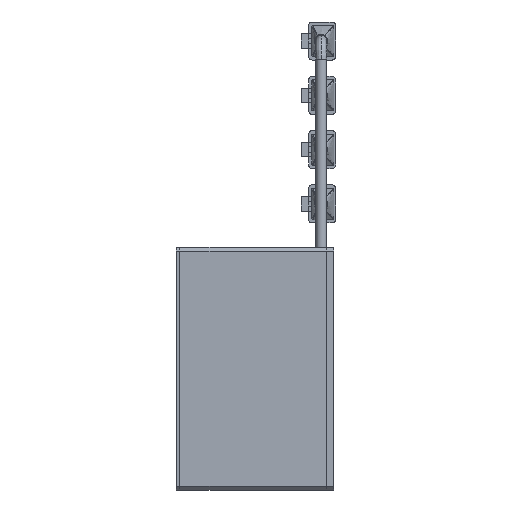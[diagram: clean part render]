
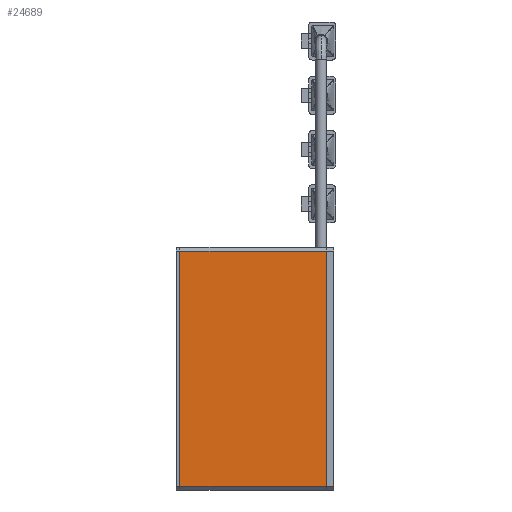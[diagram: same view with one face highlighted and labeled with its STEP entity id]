
A CAD part, left-side view. The second image highlights one B-rep face of the part: STEP entity #24689.
In plain terms, the highlighted planar face has unit normal (-1, 0, 0).
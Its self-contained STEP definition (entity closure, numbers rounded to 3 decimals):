
#1821 = VERTEX_POINT ( 'NONE', #35663 ) ;
#2476 = CARTESIAN_POINT ( 'NONE',  ( -29.5, 20.25, 32.5 ) ) ;
#6207 = DIRECTION ( 'NONE',  ( 0., -1., 0. ) ) ;
#8131 = AXIS2_PLACEMENT_3D ( 'NONE', #15630, #11729, #26549 ) ;
#8838 = EDGE_CURVE ( 'NONE', #37309, #12522, #11157, .T. ) ;
#9569 = EDGE_CURVE ( 'NONE', #12522, #1821, #33968, .T. ) ;
#10433 = CARTESIAN_POINT ( 'NONE',  ( -29.5, 20.25, -32.5 ) ) ;
#11157 = LINE ( 'NONE', #10433, #38511 ) ;
#11729 = DIRECTION ( 'NONE',  ( 1., 0., 0. ) ) ;
#12344 = CARTESIAN_POINT ( 'NONE',  ( -29.5, 0., 32.5 ) ) ;
#12522 = VERTEX_POINT ( 'NONE', #21649 ) ;
#13321 = DIRECTION ( 'NONE',  ( 0., 0., 1. ) ) ;
#15172 = PLANE ( 'NONE',  #8131 ) ;
#15630 = CARTESIAN_POINT ( 'NONE',  ( -29.5, 0., 32.5 ) ) ;
#20184 = CARTESIAN_POINT ( 'NONE',  ( -29.5, 40.5, 0. ) ) ;
#21649 = CARTESIAN_POINT ( 'NONE',  ( -29.5, 40.5, -32.5 ) ) ;
#22679 = FACE_OUTER_BOUND ( 'NONE', #26776, .T. ) ;
#24689 = ADVANCED_FACE ( 'NONE', ( #22679 ), #15172, .F. ) ;
#26549 = DIRECTION ( 'NONE',  ( 0., 0., -1. ) ) ;
#26776 = EDGE_LOOP ( 'NONE', ( #35102, #40857, #43352, #45579 ) ) ;
#27638 = LINE ( 'NONE', #34187, #30406 ) ;
#30406 = VECTOR ( 'NONE', #37633, 1000. ) ;
#31474 = DIRECTION ( 'NONE',  ( 0., 1., 0. ) ) ;
#32160 = VERTEX_POINT ( 'NONE', #12344 ) ;
#33968 = LINE ( 'NONE', #20184, #44533 ) ;
#34187 = CARTESIAN_POINT ( 'NONE',  ( -29.5, 0., 0. ) ) ;
#35102 = ORIENTED_EDGE ( 'NONE', *, *, #41870, .F. ) ;
#35663 = CARTESIAN_POINT ( 'NONE',  ( -29.5, 40.5, 32.5 ) ) ;
#37309 = VERTEX_POINT ( 'NONE', #38065 ) ;
#37633 = DIRECTION ( 'NONE',  ( 0., 0., 1. ) ) ;
#38065 = CARTESIAN_POINT ( 'NONE',  ( -29.5, 0., -32.5 ) ) ;
#38511 = VECTOR ( 'NONE', #31474, 1000. ) ;
#40550 = VECTOR ( 'NONE', #6207, 1000. ) ;
#40857 = ORIENTED_EDGE ( 'NONE', *, *, #9569, .F. ) ;
#41870 = EDGE_CURVE ( 'NONE', #1821, #32160, #44432, .T. ) ;
#43352 = ORIENTED_EDGE ( 'NONE', *, *, #8838, .F. ) ;
#43375 = EDGE_CURVE ( 'NONE', #37309, #32160, #27638, .T. ) ;
#44432 = LINE ( 'NONE', #2476, #40550 ) ;
#44533 = VECTOR ( 'NONE', #13321, 1000. ) ;
#45579 = ORIENTED_EDGE ( 'NONE', *, *, #43375, .T. ) ;
